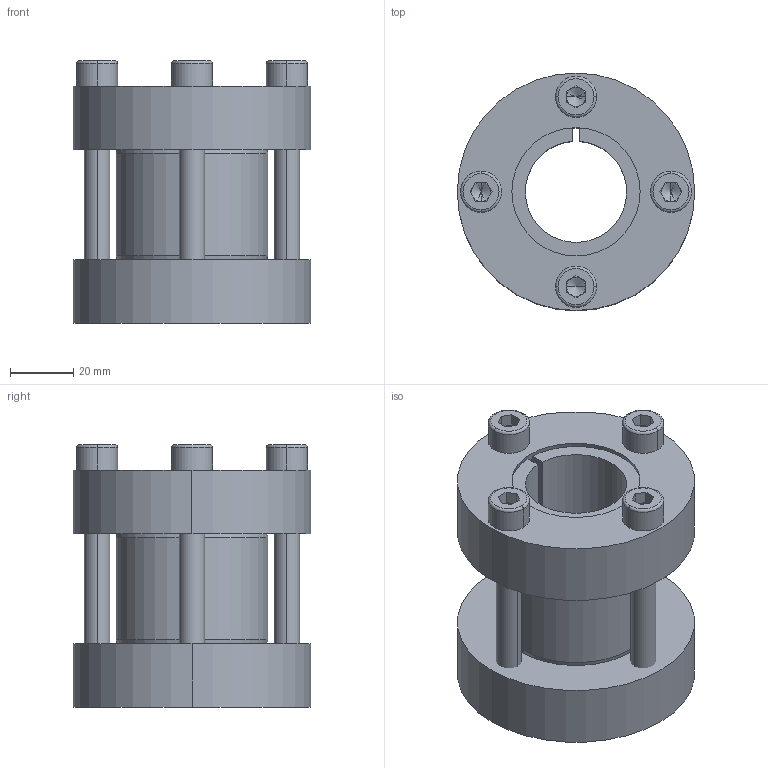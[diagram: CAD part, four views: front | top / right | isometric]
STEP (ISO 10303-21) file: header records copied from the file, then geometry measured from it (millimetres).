
FILE_DESCRIPTION (( 'STEP AP214' ), '1' );
FILE_NAME ('CONEX-M-32x75.step', '2013-04-06T13:25:22', ( 'Pc' ), ( '' ), 'SwSTEP 2.0', 'SolidWorks 2013', '' );
FILE_SCHEMA (( 'AUTOMOTIVE_DESIGN' ));
Length unit declared in the file: millimetre
Products named in the file (1): CONEX-M-32x75
Bounding box: 75 x 75 x 82.85 mm (x, y, z)
Volume: 186902.9 mm3; surface area: 58864.5 mm2
Topology: 7 solids, 7 shells, 152 faces, 342 edges, 204 vertices
Faces by surface type: plane 68, cylinder 42, cone 26, torus 16
Entity records: 5991 total; most frequent: DIRECTION 798, CARTESIAN_POINT 718, ORIENTED_EDGE 668, EDGE_CURVE 334, AXIS2_PLACEMENT_3D 315, VERTEX_POINT 204, EDGE_LOOP 180, LINE 168
